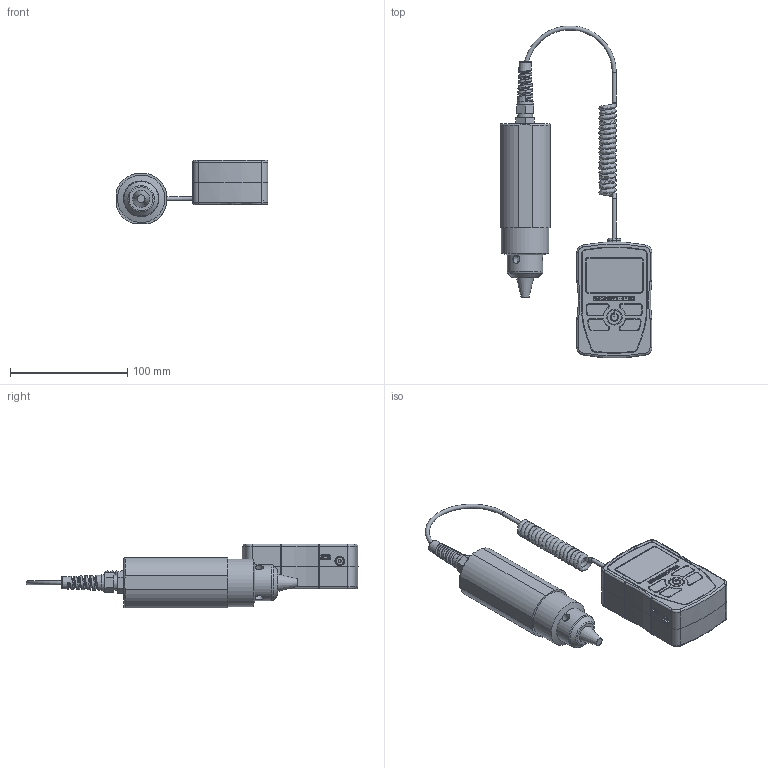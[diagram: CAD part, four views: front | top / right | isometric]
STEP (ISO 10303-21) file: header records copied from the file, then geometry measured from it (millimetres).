
FILE_DESCRIPTION((''),'2;1');
FILE_NAME('F:\CAD files\Itr\3D MARKETING MODELS\TORQUE GAUGES\TT03\TT03_12_50_100.stp','2017-06-01T10:31:09',('mlampen'),(''),'Autodesk Inventor 2010','Autodesk Inventor 2010','');
FILE_SCHEMA(('AUTOMOTIVE_DESIGN { 1 0 10303 214 1 1 1 1 }'));
Length unit declared in the file: inch
Products named in the file (1): Part2
Bounding box: 129.78 x 283.73 x 54.48 mm (x, y, z)
Volume: 421929.9 mm3; surface area: 61992.4 mm2
Topology: 2 solids, 2 shells, 739 faces, 1843 edges, 1177 vertices
Faces by surface type: plane 349, cylinder 181, bspline 115, cone 62, torus 32
Full cylindrical faces by diameter (mm): 2.5 x1, 3.429 x3, 3.505 x4, 4 x2, 5.486 x2, 5.74 x5, 6.299 x1, 6.35 x6, 6.756 x1, 6.947 x3, 7.62 x7, 11.176 x1, 12.065 x1, 12.192 x1, 12.7 x1, 13.335 x1, 30.48 x1, 40.64 x1
Entity records: 27492 total; most frequent: CARTESIAN_POINT 10936, ORIENTED_EDGE 3452, DIRECTION 3197, EDGE_CURVE 1726, VERTEX_POINT 1140, AXIS2_PLACEMENT_3D 1118, VECTOR 961, LINE 961
